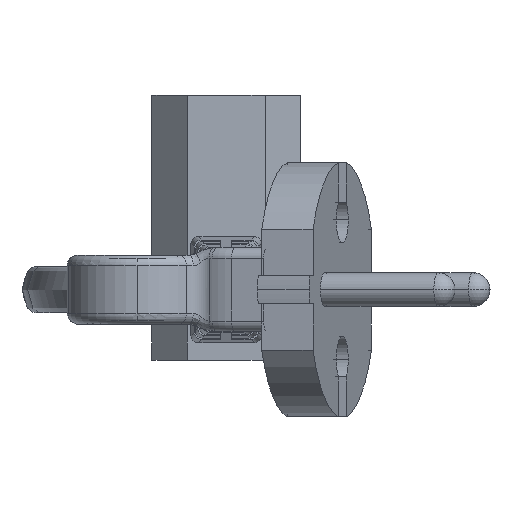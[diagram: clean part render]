
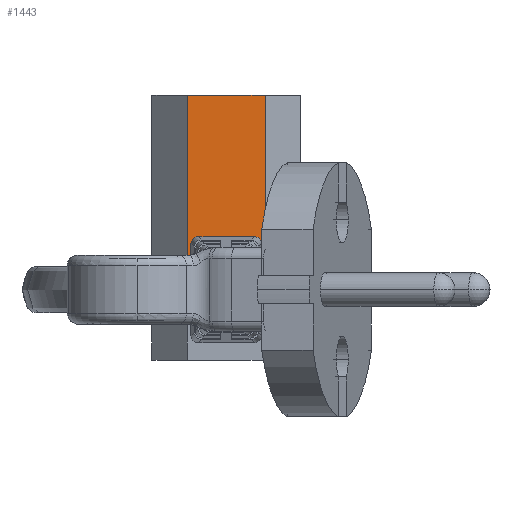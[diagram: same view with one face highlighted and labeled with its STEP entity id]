
A CAD part, left-side view. The second image highlights one B-rep face of the part: STEP entity #1443.
In plain terms, the highlighted planar face has unit normal (-1, 0, 0).
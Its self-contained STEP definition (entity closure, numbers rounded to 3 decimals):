
#155 = CARTESIAN_POINT ( 'NONE',  ( 0., -4.986, 16.496 ) ) ;
#189 = CARTESIAN_POINT ( 'NONE',  ( 0., -5.5, 17.486 ) ) ;
#193 = CARTESIAN_POINT ( 'NONE',  ( 0., 4.578, 17.486 ) ) ;
#227 = CARTESIAN_POINT ( 'NONE',  ( 0., -4.578, 17.486 ) ) ;
#315 = CARTESIAN_POINT ( 'NONE',  ( 0., 4.986, 16.496 ) ) ;
#441 = DIRECTION ( 'NONE',  ( 0., 1., 0. ) ) ;
#670 = CARTESIAN_POINT ( 'NONE',  ( 0., 4.986, 16.496 ) ) ;
#681 = CARTESIAN_POINT ( 'NONE',  ( 0., 5.5, 37.5 ) ) ;
#986 = EDGE_CURVE ( 'NONE', #12485, #7821, #4281, .T. ) ;
#1000 = EDGE_CURVE ( 'NONE', #6005, #1159, #9433, .T. ) ;
#1028 = ORIENTED_EDGE ( 'NONE', *, *, #1000, .T. ) ;
#1159 = VERTEX_POINT ( 'NONE', #155 ) ;
#1170 = VERTEX_POINT ( 'NONE', #8087 ) ;
#1193 = PLANE ( 'NONE',  #5234 ) ;
#1202 = DIRECTION ( 'NONE',  ( 0., -1., 0. ) ) ;
#1443 = ADVANCED_FACE ( 'NONE', ( #10156 ), #1193, .F. ) ;
#1444 = DIRECTION ( 'NONE',  ( 0., 0., 1. ) ) ;
#1475 = DIRECTION ( 'NONE',  ( 0., -1., 0. ) ) ;
#1506 = CARTESIAN_POINT ( 'NONE',  ( 0., -5.5, 37.5 ) ) ;
#1571 = EDGE_CURVE ( 'NONE', #12485, #1159, #8258, .T. ) ;
#1675 = VECTOR ( 'NONE', #441, 1000. ) ;
#2089 = EDGE_CURVE ( 'NONE', #6005, #7640, #9425, .T. ) ;
#2181 = CARTESIAN_POINT ( 'NONE',  ( 0., -5.5, 6. ) ) ;
#2229 = ORIENTED_EDGE ( 'NONE', *, *, #7718, .T. ) ;
#2349 = ORIENTED_EDGE ( 'NONE', *, *, #1571, .F. ) ;
#2386 = ORIENTED_EDGE ( 'NONE', *, *, #12787, .F. ) ;
#2389 =( BOUNDED_CURVE ( )  B_SPLINE_CURVE ( 3, ( #315, #5103, #193, #3268 ),
 .UNSPECIFIED., .F., .T. ) 
 B_SPLINE_CURVE_WITH_KNOTS ( ( 4, 4 ),
 ( 5.507, 7.059 ),
 .UNSPECIFIED. ) 
 CURVE ( )  GEOMETRIC_REPRESENTATION_ITEM ( )  RATIONAL_B_SPLINE_CURVE ( ( 1., 0.809, 0.809, 1. ) ) 
 REPRESENTATION_ITEM ( '' )  );
#2401 = VERTEX_POINT ( 'NONE', #9811 ) ;
#2740 = CARTESIAN_POINT ( 'NONE',  ( 0., -4.986, 6. ) ) ;
#2788 = DIRECTION ( 'NONE',  ( 0., 0., -1. ) ) ;
#3091 = VECTOR ( 'NONE', #3417, 1000. ) ;
#3199 = EDGE_LOOP ( 'NONE', ( #2349, #9635, #2386, #5048, #2229, #5108, #11593, #6913, #5212, #1028 ) ) ;
#3268 = CARTESIAN_POINT ( 'NONE',  ( 0., 3.996, 17.486 ) ) ;
#3366 = CARTESIAN_POINT ( 'NONE',  ( 0., -5.5, 6. ) ) ;
#3417 = DIRECTION ( 'NONE',  ( 0., -1., 0. ) ) ;
#3448 = VECTOR ( 'NONE', #2788, 1000. ) ;
#3499 = CARTESIAN_POINT ( 'NONE',  ( 0., 3.996, 17.486 ) ) ;
#4170 = LINE ( 'NONE', #8173, #9953 ) ;
#4281 = LINE ( 'NONE', #3366, #8060 ) ;
#4474 = CARTESIAN_POINT ( 'NONE',  ( 0., -3.996, 17.486 ) ) ;
#4593 = CARTESIAN_POINT ( 'NONE',  ( 0., -5.5, 37.5 ) ) ;
#4665 = CARTESIAN_POINT ( 'NONE',  ( 0., -3.996, 17.486 ) ) ;
#5048 = ORIENTED_EDGE ( 'NONE', *, *, #8071, .F. ) ;
#5103 = CARTESIAN_POINT ( 'NONE',  ( 0., 4.986, 17.078 ) ) ;
#5108 = ORIENTED_EDGE ( 'NONE', *, *, #7994, .T. ) ;
#5212 = ORIENTED_EDGE ( 'NONE', *, *, #2089, .F. ) ;
#5234 = AXIS2_PLACEMENT_3D ( 'NONE', #8197, #9060, #7166 ) ;
#5404 = CARTESIAN_POINT ( 'NONE',  ( 0., -4.986, 17.078 ) ) ;
#5490 = EDGE_CURVE ( 'NONE', #9228, #2401, #11756, .T. ) ;
#6005 = VERTEX_POINT ( 'NONE', #4665 ) ;
#6207 = DIRECTION ( 'NONE',  ( 0., 0., -1. ) ) ;
#6344 = CARTESIAN_POINT ( 'NONE',  ( 0., 5.5, 37.5 ) ) ;
#6418 = EDGE_CURVE ( 'NONE', #9228, #7640, #2389, .T. ) ;
#6430 = VECTOR ( 'NONE', #11883, 1000. ) ;
#6658 = VERTEX_POINT ( 'NONE', #6344 ) ;
#6913 = ORIENTED_EDGE ( 'NONE', *, *, #6418, .T. ) ;
#6918 = CARTESIAN_POINT ( 'NONE',  ( 0., -5.5, 6. ) ) ;
#7115 = LINE ( 'NONE', #2181, #11026 ) ;
#7166 = DIRECTION ( 'NONE',  ( 0., 1., 0. ) ) ;
#7289 = CARTESIAN_POINT ( 'NONE',  ( 0., -4.986, 37.5 ) ) ;
#7640 = VERTEX_POINT ( 'NONE', #3499 ) ;
#7678 = LINE ( 'NONE', #4593, #3091 ) ;
#7704 = CARTESIAN_POINT ( 'NONE',  ( 0., 4.986, 37.5 ) ) ;
#7718 = EDGE_CURVE ( 'NONE', #6658, #1170, #9660, .T. ) ;
#7821 = VERTEX_POINT ( 'NONE', #6918 ) ;
#7994 = EDGE_CURVE ( 'NONE', #1170, #2401, #7115, .T. ) ;
#8060 = VECTOR ( 'NONE', #1475, 1000. ) ;
#8071 = EDGE_CURVE ( 'NONE', #6658, #10372, #7678, .T. ) ;
#8087 = CARTESIAN_POINT ( 'NONE',  ( 0., 5.5, 6. ) ) ;
#8173 = CARTESIAN_POINT ( 'NONE',  ( 0., -5.5, 37.5 ) ) ;
#8197 = CARTESIAN_POINT ( 'NONE',  ( 0., -5.5, 37.5 ) ) ;
#8258 = LINE ( 'NONE', #7289, #12329 ) ;
#9060 = DIRECTION ( 'NONE',  ( 1., 0., 0. ) ) ;
#9228 = VERTEX_POINT ( 'NONE', #670 ) ;
#9425 = LINE ( 'NONE', #189, #1675 ) ;
#9433 =( BOUNDED_CURVE ( )  B_SPLINE_CURVE ( 3, ( #4474, #227, #5404, #12344 ),
 .UNSPECIFIED., .F., .T. ) 
 B_SPLINE_CURVE_WITH_KNOTS ( ( 4, 4 ),
 ( 5.507, 7.059 ),
 .UNSPECIFIED. ) 
 CURVE ( )  GEOMETRIC_REPRESENTATION_ITEM ( )  RATIONAL_B_SPLINE_CURVE ( ( 1., 0.809, 0.809, 1. ) ) 
 REPRESENTATION_ITEM ( '' )  );
#9635 = ORIENTED_EDGE ( 'NONE', *, *, #986, .T. ) ;
#9660 = LINE ( 'NONE', #681, #6430 ) ;
#9811 = CARTESIAN_POINT ( 'NONE',  ( 0., 4.986, 6. ) ) ;
#9953 = VECTOR ( 'NONE', #6207, 1000. ) ;
#10156 = FACE_OUTER_BOUND ( 'NONE', #3199, .T. ) ;
#10372 = VERTEX_POINT ( 'NONE', #1506 ) ;
#11026 = VECTOR ( 'NONE', #1202, 1000. ) ;
#11593 = ORIENTED_EDGE ( 'NONE', *, *, #5490, .F. ) ;
#11756 = LINE ( 'NONE', #7704, #3448 ) ;
#11883 = DIRECTION ( 'NONE',  ( 0., 0., -1. ) ) ;
#12329 = VECTOR ( 'NONE', #1444, 1000. ) ;
#12344 = CARTESIAN_POINT ( 'NONE',  ( 0., -4.986, 16.496 ) ) ;
#12485 = VERTEX_POINT ( 'NONE', #2740 ) ;
#12787 = EDGE_CURVE ( 'NONE', #10372, #7821, #4170, .T. ) ;
